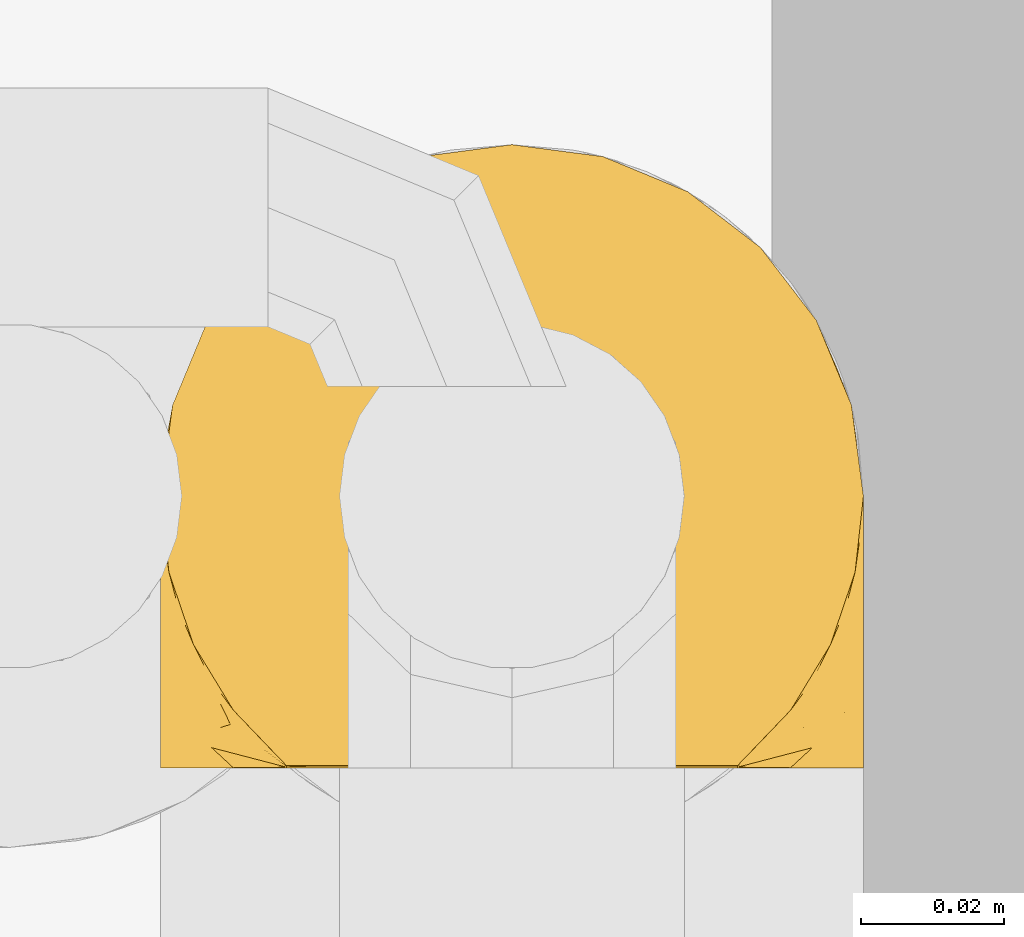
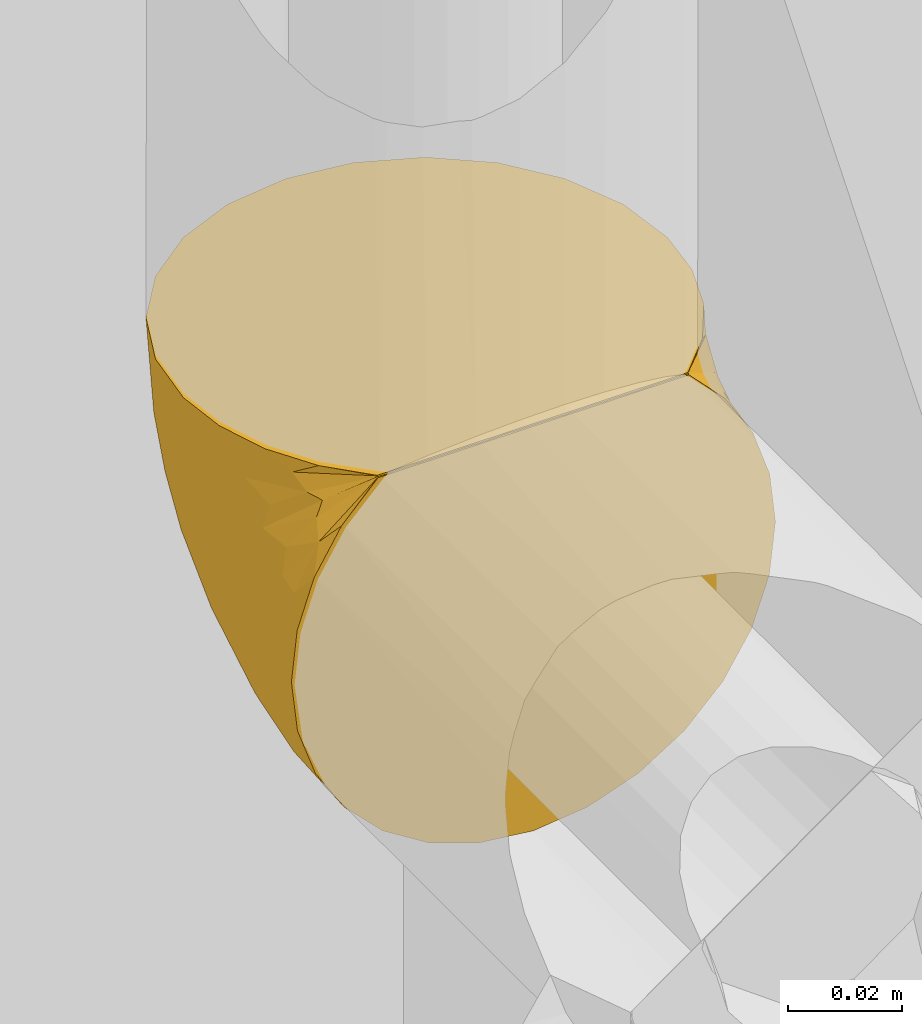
# One storey, part 66 of 94: 1 covering.
"""IFC2X3 building model written with IfcOpenShell, lengths in millimetres."""

import ifcopenshell
import ifcopenshell.guid

model = None  # the IFC model being written
_history = None  # IfcOwnerHistory: only IFC2X3 demands one
_inside = {}  # id of a spatial element -> (the spatial element, [elements in it])
_under = {}  # id of a project, library or spatial element -> (it, [spatial elements below it])
_declared = {}  # id of a project -> (the project, [libraries it declares])
_typed = {}  # id of a type object -> (the type object, [elements of that type])
_made_of = {}  # id of a material, layer set ... -> (it, [elements and type objects made of it])


def new_model(schema):
    """Start an empty IFC model of exactly this schema.

    Asked for "IFC4X3", IfcOpenShell would pick the latest addendum, in which some entities
    have other attributes; the version numbers below select the first issue.
    IFC2X3 requires an IfcOwnerHistory on every rooted entity: one is made here for all.
    """
    global model, _history
    if schema == "IFC4X3":
        model = ifcopenshell.file(schema_version=(4, 3, 0, 0))
    else:
        model = ifcopenshell.file(schema=schema)
    _inside.clear()
    _under.clear()
    _declared.clear()
    _typed.clear()
    _made_of.clear()
    _history = None
    if model.schema == "IFC2X3":
        org = make("IfcOrganization", Name="unknown")
        user = make(
            "IfcPersonAndOrganization",
            ThePerson=make("IfcPerson", FamilyName="unknown"),
            TheOrganization=org,
        )
        app = make(
            "IfcApplication",
            ApplicationDeveloper=org,
            Version="unknown",
            ApplicationFullName="unknown",
            ApplicationIdentifier="unknown",
        )
        _history = make(
            "IfcOwnerHistory",
            OwningUser=user,
            OwningApplication=app,
            ChangeAction="ADDED",
            CreationDate=0,
        )
    return model


def make(cls, **values):
    """One entity of the class cls with the attributes given. An attribute that is None is left unset."""
    return model.create_entity(
        cls, **{name: value for name, value in values.items() if value is not None}
    )


def entity(cls, *values):
    """Any entity or typed value of the class cls, its attributes in the order of the schema. None: left unset."""
    e = model.create_entity(cls)
    for i, value in enumerate(values):
        if value is not None:
            e[i] = value
    return e


def rooted(cls, **values):
    """An entity with a GlobalId (a new one), such as an element, a storey or a relation."""
    return make(cls, GlobalId=ifcopenshell.guid.new(), OwnerHistory=_history, **values)


def si_unit(unit_type, name, prefix=None):
    """IfcSIUnit, for example si_unit("LENGTHUNIT", "METRE", prefix="MILLI")."""
    return make("IfcSIUnit", UnitType=unit_type, Prefix=prefix, Name=name)


def converted_unit(unit_type, name, factor, base, dimensions=None, offset=None):
    """IfcConversionBasedUnit, such as the inch: factor (a typed value) times the base unit."""
    return make(
        "IfcConversionBasedUnit"
        if offset is None
        else "IfcConversionBasedUnitWithOffset",
        ConversionOffset=offset,
        Dimensions=None
        if dimensions is None
        else entity("IfcDimensionalExponents", *dimensions),
        UnitType=unit_type,
        Name=name,
        ConversionFactor=make(
            "IfcMeasureWithUnit", ValueComponent=factor, UnitComponent=base
        ),
    )


def derived_unit(unit_type, elements):
    """IfcDerivedUnit: a product of units, each with its exponent."""
    return make(
        "IfcDerivedUnit",
        Elements=[
            make("IfcDerivedUnitElement", Unit=unit, Exponent=power)
            for unit, power in elements
        ],
        UnitType=unit_type,
    )


def assignment(units):
    """IfcUnitAssignment: the units of a project."""
    return None if units is None else make("IfcUnitAssignment", Units=units)


def point(xyz):
    """IfcCartesianPoint."""
    return None if xyz is None else make("IfcCartesianPoint", Coordinates=xyz)


def direction(xyz):
    """IfcDirection."""
    return None if xyz is None else make("IfcDirection", DirectionRatios=xyz)


def frame(location, z_axis=None, x_axis=None):
    """IfcAxis2Placement3D, a coordinate frame: its origin and axes. An axis left out is left unset."""
    return make(
        "IfcAxis2Placement3D",
        Location=point(location),
        Axis=direction(z_axis),
        RefDirection=direction(x_axis),
    )


def origin():
    """The frame at (0, 0, 0) with its axes left unset."""
    return frame((0.0, 0.0, 0.0))


def place(relative_to, where):
    """IfcLocalPlacement: puts the frame where relative to a parent placement (None: the world)."""
    return make(
        "IfcLocalPlacement", PlacementRelTo=relative_to, RelativePlacement=where
    )


def context(
    kind, dimensions, precision=None, world=None, true_north=None, identifier=None
):
    """IfcGeometricRepresentationContext, for example the 3D "Model" context."""
    return make(
        "IfcGeometricRepresentationContext",
        ContextIdentifier=identifier,
        ContextType=kind,
        CoordinateSpaceDimension=dimensions,
        Precision=precision,
        WorldCoordinateSystem=world,
        TrueNorth=true_north,
    )


def subcontext(parent, identifier, kind, view, scale=None):
    """IfcGeometricRepresentationSubContext, for example "Body" below "Model"."""
    return make(
        "IfcGeometricRepresentationSubContext",
        ContextIdentifier=identifier,
        ContextType=kind,
        ParentContext=parent,
        TargetScale=scale,
        TargetView=view,
    )


def project(units=None, contexts=None):
    """IfcProject with its units and contexts."""
    return rooted(
        "IfcProject",
        Name="project",
        RepresentationContexts=contexts,
        UnitsInContext=assignment(units),
    )


def spatial(cls, under=None, at=None, **own):
    """A site, building, storey or space (cls), placed at a placement, below another one or the project."""
    s = rooted(cls, ObjectPlacement=at, **own)
    if under is not None:
        _under.setdefault(under.id(), (under, []))[1].append(s)
    return s


def faces_of(points, faces, orient=None, outer=None):
    """IfcFace entities. A face is a list of loops; a loop is a list of indices into points, from 0.

    orient and outer hold one flag for each loop. By default every Orientation is true, the
    first loop of a face is its IfcFaceOuterBound and the others are IfcFaceBound.
    """
    made = []
    for i, loops in enumerate(faces):
        bounds = []
        for j, loop in enumerate(loops):
            is_outer = j == 0 if outer is None else outer[i][j]
            bounds.append(
                make(
                    "IfcFaceOuterBound" if is_outer else "IfcFaceBound",
                    Bound=make("IfcPolyLoop", Polygon=[points[k] for k in loop]),
                    Orientation=True if orient is None else orient[i][j],
                )
            )
        made.append(make("IfcFace", Bounds=bounds))
    return made


def faceted_brep(points, faces, orient=None, outer=None, voids=None):
    """IfcFacetedBrep: a solid bounded by flat faces; with voids (closed shells), ...WithVoids."""
    shared = [point(p) for p in points]
    hull = make("IfcClosedShell", CfsFaces=faces_of(shared, faces, orient, outer))
    if voids is None:
        return make("IfcFacetedBrep", Outer=hull)
    return make(
        "IfcFacetedBrepWithVoids",
        Outer=hull,
        Voids=[
            make(cls, CfsFaces=faces_of(shared, fs, o, b)) for cls, fs, o, b in voids
        ],
    )


def shape(context_of_items, identifier, shape_type, items):
    """IfcShapeRepresentation: the items that make up one representation, for example the "Body"."""
    return make(
        "IfcShapeRepresentation",
        ContextOfItems=context_of_items,
        RepresentationIdentifier=identifier,
        RepresentationType=shape_type,
        Items=items,
    )


def material(Name=None, Category=None):
    """IfcMaterial."""
    return make("IfcMaterial", Name=Name, Category=Category)


def made_of(thing, what):
    """Note that an element or type object is made of a material, layer set ...; save() writes the relation."""
    if what is not None:
        _made_of.setdefault(what.id(), (what, []))[1].append(thing)
    return thing


def element(
    cls,
    number,
    at=None,
    inside=None,
    cuts=None,
    type_object=None,
    material=None,
    context=None,
    identifier="Body",
    shape_type=None,
    held_by="IfcProductDefinitionShape",
    body=None,
    shapes=None,
    **own,
):
    """One element of the class cls, such as IfcWall. Its Tag is "e" and its number.

    at: its placement. inside: the storey or other place that contains it. cuts: it is an
    opening in that element (IfcRelVoidsElement). A single representation is given by context,
    identifier, shape_type and body (its items); several are given by shapes. held_by: the class
    of the entity that holds the representations. save() writes the other relations.
    """
    e = rooted(cls, Tag="e%d" % number, ObjectPlacement=at, **own)
    if body is not None:
        shapes = [shape(context, identifier, shape_type, body)]
    if shapes is not None:
        e.Representation = make(held_by, Representations=shapes)
    if inside is not None:
        _inside.setdefault(inside.id(), (inside, []))[1].append(e)
    if cuts is not None:
        rooted(
            "IfcRelVoidsElement", RelatingBuildingElement=cuts, RelatedOpeningElement=e
        )
    if type_object is not None:
        _typed.setdefault(type_object.id(), (type_object, []))[1].append(e)
    return made_of(e, material)


def aggregate(whole, parts):
    """IfcRelAggregates: a whole, such as a stair, and the parts it consists of."""
    return rooted("IfcRelAggregates", RelatingObject=whole, RelatedObjects=parts)


def save(model, path):
    """Write the relations noted so far, then the file.

    IfcRelAggregates (storeys below a building ...), IfcRelContainedInSpatialStructure (elements
    in a storey), IfcRelDefinesByType, IfcRelAssociatesMaterial and IfcRelDeclares: one each for
    every whole, place, type object, material and project.
    """
    for whole, parts in _under.values():
        aggregate(whole, parts)
    for where, things in _inside.values():
        rooted(
            "IfcRelContainedInSpatialStructure",
            RelatedElements=things,
            RelatingStructure=where,
        )
    for kind, things in _typed.values():
        rooted("IfcRelDefinesByType", RelatedObjects=things, RelatingType=kind)
    for what, things in _made_of.values():
        rooted("IfcRelAssociatesMaterial", RelatedObjects=things, RelatingMaterial=what)
    for by, libraries in _declared.values():
        rooted("IfcRelDeclares", RelatingContext=by, RelatedDefinitions=libraries)
    model.write(path)


model = new_model("IFC2X3")

# Units and contexts
model_context = context("Model", 3, precision=0.01, world=origin(), true_north=direction((6.123031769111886e-17, 1.0)))
body_context = subcontext(model_context, "Body", "Model", "MODEL_VIEW")
ifc_project = project(units=[si_unit("LENGTHUNIT", "METRE", prefix="MILLI"), si_unit("AREAUNIT", "SQUARE_METRE"), si_unit("VOLUMEUNIT", "CUBIC_METRE"), converted_unit("PLANEANGLEUNIT", "DEGREE", entity("IfcRatioMeasure", 0.017453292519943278), si_unit("PLANEANGLEUNIT", "RADIAN"), dimensions=[0, 0, 0, 0, 0, 0, 0]), si_unit("MASSUNIT", "GRAM", prefix="KILO"), derived_unit("MASSDENSITYUNIT", [(si_unit("MASSUNIT", "GRAM", prefix="KILO"), 1), (si_unit("LENGTHUNIT", "METRE"), -3)]), derived_unit("IONCONCENTRATIONUNIT", [(si_unit("MASSUNIT", "GRAM", prefix="KILO"), 1), (si_unit("LENGTHUNIT", "METRE"), -3)]), derived_unit("MOMENTOFINERTIAUNIT", [(si_unit("LENGTHUNIT", "METRE"), 4)]), si_unit("TIMEUNIT", "SECOND"), si_unit("FREQUENCYUNIT", "HERTZ"), si_unit("THERMODYNAMICTEMPERATUREUNIT", "DEGREE_CELSIUS"), derived_unit("THERMALTRANSMITTANCEUNIT", [(si_unit("MASSUNIT", "GRAM", prefix="KILO"), 1), (si_unit("THERMODYNAMICTEMPERATUREUNIT", "KELVIN"), -1), (si_unit("TIMEUNIT", "SECOND"), -3)]), derived_unit("THERMALCONDUCTANCEUNIT", [(si_unit("MASSUNIT", "GRAM", prefix="KILO"), 1), (si_unit("THERMODYNAMICTEMPERATUREUNIT", "KELVIN"), -1), (si_unit("TIMEUNIT", "SECOND"), -3), (si_unit("LENGTHUNIT", "METRE"), 1)]), derived_unit("VOLUMETRICFLOWRATEUNIT", [(si_unit("LENGTHUNIT", "METRE"), 3), (si_unit("TIMEUNIT", "SECOND"), -1)]), derived_unit("MASSFLOWRATEUNIT", [(si_unit("MASSUNIT", "GRAM", prefix="KILO"), 1), (si_unit("TIMEUNIT", "SECOND"), -1)]), derived_unit("ROTATIONALFREQUENCYUNIT", [(si_unit("TIMEUNIT", "SECOND"), -1)]), si_unit("ELECTRICCURRENTUNIT", "AMPERE"), si_unit("ELECTRICVOLTAGEUNIT", "VOLT"), si_unit("POWERUNIT", "WATT"), si_unit("FORCEUNIT", "NEWTON", prefix="KILO"), si_unit("ILLUMINANCEUNIT", "LUX"), si_unit("LUMINOUSFLUXUNIT", "LUMEN"), si_unit("LUMINOUSINTENSITYUNIT", "CANDELA"), derived_unit("USERDEFINED", [(si_unit("MASSUNIT", "GRAM", prefix="KILO"), -1), (si_unit("LENGTHUNIT", "METRE"), -2), (si_unit("TIMEUNIT", "SECOND"), 3), (si_unit("LUMINOUSFLUXUNIT", "LUMEN"), 1)]), derived_unit("USERDEFINED", [(si_unit("MASSUNIT", "GRAM", prefix="KILO"), 1), (si_unit("TIMEUNIT", "SECOND"), -3), (si_unit("LENGTHUNIT", "METRE"), 3), (si_unit("ELECTRICCURRENTUNIT", "AMPERE"), -2)]), derived_unit("SOUNDPOWERUNIT", [(si_unit("MASSUNIT", "GRAM", prefix="KILO"), 1), (si_unit("TIMEUNIT", "SECOND"), -3), (si_unit("LENGTHUNIT", "METRE"), 2)]), derived_unit("SOUNDPRESSUREUNIT", [(si_unit("MASSUNIT", "GRAM", prefix="KILO"), 1), (si_unit("LENGTHUNIT", "METRE"), -1), (si_unit("TIMEUNIT", "SECOND"), -2)]), derived_unit("LINEARVELOCITYUNIT", [(si_unit("LENGTHUNIT", "METRE"), 1), (si_unit("TIMEUNIT", "SECOND"), -1)]), si_unit("PRESSUREUNIT", "PASCAL"), derived_unit("USERDEFINED", [(si_unit("MASSUNIT", "GRAM", prefix="KILO"), 1), (si_unit("LENGTHUNIT", "METRE"), -2), (si_unit("TIMEUNIT", "SECOND"), -2)]), derived_unit("LINEARFORCEUNIT", [(si_unit("MASSUNIT", "GRAM", prefix="KILO"), 1), (si_unit("TIMEUNIT", "SECOND"), -2)]), derived_unit("PLANARFORCEUNIT", [(si_unit("MASSUNIT", "GRAM", prefix="KILO"), 1), (si_unit("LENGTHUNIT", "METRE"), -1), (si_unit("TIMEUNIT", "SECOND"), -2)]), derived_unit("SPECIFICHEATCAPACITYUNIT", [(si_unit("THERMODYNAMICTEMPERATUREUNIT", "KELVIN"), -1), (si_unit("LENGTHUNIT", "METRE"), 2), (si_unit("TIMEUNIT", "SECOND"), -2)]), derived_unit("HEATINGVALUEUNIT", [(si_unit("LENGTHUNIT", "METRE"), 2), (si_unit("TIMEUNIT", "SECOND"), -2)]), derived_unit("VAPORPERMEABILITYUNIT", [(si_unit("LENGTHUNIT", "METRE"), -1), (si_unit("TIMEUNIT", "SECOND"), 1)]), derived_unit("DYNAMICVISCOSITYUNIT", [(si_unit("MASSUNIT", "GRAM", prefix="KILO"), 1), (si_unit("TIMEUNIT", "SECOND"), -1), (si_unit("LENGTHUNIT", "METRE"), -1)]), derived_unit("THERMALEXPANSIONCOEFFICIENTUNIT", [(si_unit("THERMODYNAMICTEMPERATUREUNIT", "KELVIN"), -1)]), derived_unit("MODULUSOFELASTICITYUNIT", [(si_unit("MASSUNIT", "GRAM", prefix="KILO"), 1), (si_unit("LENGTHUNIT", "METRE"), -1), (si_unit("TIMEUNIT", "SECOND"), -2)]), derived_unit("ISOTHERMALMOISTURECAPACITYUNIT", [(si_unit("LENGTHUNIT", "METRE"), 3), (si_unit("MASSUNIT", "GRAM", prefix="KILO"), -1)]), derived_unit("MOISTUREDIFFUSIVITYUNIT", [(si_unit("TIMEUNIT", "SECOND"), -1), (si_unit("LENGTHUNIT", "METRE"), 2)])], contexts=[model_context])

# Site, building, storey
site_placement = place(None, origin())
site = spatial("IfcSite", under=ifc_project, at=site_placement, Name="Default", CompositionType="ELEMENT")
building_placement = place(site_placement, origin())
building = spatial("IfcBuilding", under=site, at=building_placement, CompositionType="ELEMENT")
storey_placement = place(building_placement, origin())
storey = spatial("IfcBuildingStorey", under=building, at=storey_placement, Name="Niveau 0", CompositionType="ELEMENT", Elevation=0.0)

# Covering
ifc_material = material(Name="Isolation - Laine minérale")
covering_placement = place(storey_placement, frame((-5839.6305268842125, 9987.250898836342, 618.4702525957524)))
element("IfcCovering", 1, at=covering_placement, inside=storey, material=ifc_material, Name="Isolation des canalisations:Laine minérale", ObjectType="Isolation des canalisations:Laine minérale", PredefinedType="INSULATION", context=body_context, shape_type="Brep", body=[
    faceted_brep([(2.8291513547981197, 1.5957276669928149, -50.5386808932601), (6.466804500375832, 1.595804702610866, -60.92942203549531), (12.324723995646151, 1.595871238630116, -70.24825958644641), (20.108455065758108, 1.5959239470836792, -78.02890352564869), (29.42759313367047, 1.5959601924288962, -83.88215232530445), (39.81523593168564, 1.5959781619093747, -87.51516023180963), (50.74590397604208, 1.5959769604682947, -88.74594440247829), (61.688263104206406, 1.5959566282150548, -87.51231966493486), (72.07900424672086, 1.5959181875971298, -83.87466651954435), (81.39784179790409, 1.5958635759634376, -78.01674702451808), (89.17848573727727, 1.5957955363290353, -70.23301595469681), (95.03173453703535, 1.5957174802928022, -60.913877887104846), (98.66474244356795, 1.5956333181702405, -50.52623508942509), (99.89552661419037, 1.5955473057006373, -39.595567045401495), (98.72569041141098, 1.5954657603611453, -28.936376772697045), (95.27367191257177, 1.5953904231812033, -18.7880906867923), (89.705313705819, 1.5953248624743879, -9.631674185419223), (82.29577971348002, 1.5952722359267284, -1.9090232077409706), (79.85152476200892, 1.5952746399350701, -1.9090419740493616), (78.0745265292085, 1.5952763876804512, -1.9090556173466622), (76.29752829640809, 1.595278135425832, -1.9090692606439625), (74.79796544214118, 1.5952796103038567, -1.909080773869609), (73.29840258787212, 1.595281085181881, -1.9090922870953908), (70.29927687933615, 1.5952840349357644, -1.9091153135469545), (67.30015117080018, 1.5952869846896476, -1.9091383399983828), (64.3010254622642, 1.5952899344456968, -1.909161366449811), (61.30189975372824, 1.59529288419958, -1.9091843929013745), (59.80233689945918, 1.5952943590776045, -1.9091959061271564), (58.30277404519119, 1.595295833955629, -1.9092074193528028), (55.85851909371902, 1.5952982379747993, -1.9092261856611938), (53.414264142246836, 1.595300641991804, -1.90924495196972), (50.97000919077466, 1.5953030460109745, -1.9092637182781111), (48.5257542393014, 1.595305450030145, -1.9092824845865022), (46.08149928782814, 1.5953078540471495, -1.9093012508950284), (43.637244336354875, 1.5953102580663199, -1.9093200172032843), (41.19298938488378, 1.5953126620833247, -1.9093387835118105), (38.748734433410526, 1.5953150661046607, -1.9093575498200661), (36.304479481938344, 1.5953174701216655, -1.9093763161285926), (33.86022453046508, 1.59531987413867, -1.9093950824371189), (31.415969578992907, 1.5953222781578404, -1.90941384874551), (28.97171462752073, 1.5953246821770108, -1.909432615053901), (26.527459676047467, 1.5953270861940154, -1.9094513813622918), (24.083204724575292, 1.5953294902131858, -1.9094701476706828), (21.63894977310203, 1.5953318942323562, -1.9094889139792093), (19.194694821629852, 1.5953342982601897, -1.9095076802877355), (11.772507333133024, 1.5954016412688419, -9.648886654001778), (6.207051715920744, 1.5954781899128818, -18.81021002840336), (2.760658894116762, 1.5955603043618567, -28.95757189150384), (1.5955266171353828, 1.5956439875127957, -39.59632176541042), (82.29577761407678, 1.908885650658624, -1.5954073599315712), (89.71324572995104, 9.641972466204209, -1.5953504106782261), (95.27856325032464, 18.798757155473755, -1.5953076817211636), (98.72721023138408, 28.944017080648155, -1.5952812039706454), (99.8952722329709, 39.59554730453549, -1.5952722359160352), (98.22053910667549, 52.316505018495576, -1.5952850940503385), (93.3104449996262, 64.17055378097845, -1.5953227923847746), (85.49960471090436, 74.34985975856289, -1.5953827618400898), (75.32031409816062, 82.16072007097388, -1.5954609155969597), (63.46627499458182, 87.07083749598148, -1.5955519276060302), (50.745320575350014, 88.74559564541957, -1.595649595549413), (38.02436286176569, 87.07086251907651, -1.5957472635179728), (26.17031409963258, 82.16076841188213, -1.5958382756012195), (15.991008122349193, 74.34992812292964, -1.595916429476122), (8.180147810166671, 64.17063750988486, -1.595976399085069), (3.270030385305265, 52.31659840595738, -1.5960140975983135), (1.5952722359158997, 39.59564398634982, -1.5960269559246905), (2.7633132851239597, 28.944111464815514, -1.596017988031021), (6.211940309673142, 18.798844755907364, -1.5959915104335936), (11.777239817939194, 9.642049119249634, -1.5959487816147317), (19.194692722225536, 1.9089477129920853, -1.5958918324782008), (21.63894767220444, 1.908945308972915, -1.59587306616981), (23.138510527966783, 1.9089438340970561, -1.595861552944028), (25.11041943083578, 1.9089418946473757, -1.5958464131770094), (27.082328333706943, 1.9089399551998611, -1.5958312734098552), (29.054237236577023, 1.9089380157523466, -1.5958161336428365), (31.026146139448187, 1.908936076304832, -1.5958009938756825), (32.99805504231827, 1.9089341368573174, -1.5957858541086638), (34.96996394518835, 1.908932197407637, -1.5957707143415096), (36.94187284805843, 1.9089302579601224, -1.595755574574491), (38.913781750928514, 1.9089283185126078, -1.5957404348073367), (40.88569065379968, 1.9089263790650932, -1.595725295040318), (42.857599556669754, 1.9089244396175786, -1.595710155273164), (44.82950845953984, 1.9089225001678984, -1.5956950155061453), (46.801417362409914, 1.9089205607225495, -1.5956798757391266), (48.77332626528, 1.9089186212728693, -1.5956647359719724), (50.74523516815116, 1.9089166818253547, -1.5956495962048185), (52.717144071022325, 1.90891474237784, -1.5956344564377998), (54.68905297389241, 1.9089128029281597, -1.595619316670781), (56.660961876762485, 1.908910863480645, -1.5956041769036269), (58.63287077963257, 1.9089089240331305, -1.5955890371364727), (60.60477968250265, 1.908906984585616, -1.595573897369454), (62.57668858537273, 1.9089050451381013, -1.5955587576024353), (64.5485974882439, 1.9089031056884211, -1.5955436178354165), (66.52050639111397, 1.9089011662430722, -1.5955284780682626), (69.51963210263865, 1.9088982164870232, -1.5955054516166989), (72.51875781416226, 1.9088952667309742, -1.5954824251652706), (74.96301276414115, 1.9088928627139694, -1.5954636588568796), (77.40726771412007, 1.908890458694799, -1.5954448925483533), (79.85152266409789, 1.9088880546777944, -1.5954261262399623), (47.737228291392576, 1.8242150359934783, -1.8100427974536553), (49.657808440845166, 1.8156542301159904, -1.8188165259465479), (40.01775558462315, 1.8147579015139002, -1.8197813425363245), (37.927828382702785, 1.8212611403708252, -1.8132394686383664), (53.48954522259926, 1.8331971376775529, -1.7999786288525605), (24.240817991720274, 1.828068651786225, -1.8060581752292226), (20.791712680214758, 1.7793356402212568, -1.8498420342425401), (59.05255556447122, 1.8115141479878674, -1.8227491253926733), (78.62939691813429, 1.8170341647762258, -1.8171945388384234), (76.78999818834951, 1.8189905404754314, -1.8152366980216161), (30.120633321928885, 1.8098811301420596, -1.8245412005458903), (28.08693010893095, 1.8202696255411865, -1.8143503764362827), (57.08064673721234, 1.7964836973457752, -1.8361791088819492), (63.562645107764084, 1.8230172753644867, -1.81117674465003), (61.677332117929, 1.826313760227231, -1.8076575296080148), (65.53455406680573, 1.8091225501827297, -1.8249460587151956), (51.731191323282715, 1.8225571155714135, -1.8117647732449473), (80.46258805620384, 1.8194128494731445, -1.8147741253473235), (45.81546396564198, 1.8294683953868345, -1.8043084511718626), (33.9840105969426, 1.8302180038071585, -1.8035680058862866), (35.876131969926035, 1.8259287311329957, -1.8083017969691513), (67.38573204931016, 1.8273006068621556, -1.8065275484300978), (43.93843290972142, 1.8268106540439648, -1.807270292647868), (22.388730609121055, 1.817089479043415, -1.8176263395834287), (26.09637521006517, 1.8279470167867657, -1.8061765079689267), (19.194694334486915, 1.8170926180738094, -1.817650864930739), (19.1946944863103, 1.7479752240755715, -1.8462806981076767), (19.194694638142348, 1.6788578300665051, -1.8749105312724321), (82.29577922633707, 1.817030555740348, -1.8171663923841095), (82.29577872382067, 1.845659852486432, -1.7480487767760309), (82.29577822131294, 1.8742891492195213, -1.67893116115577), (69.27814949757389, 1.8026593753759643, -1.83077263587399), (32.05514877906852, 1.8237860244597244, -1.810636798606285), (55.24236187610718, 1.816012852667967, -1.8184135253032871), (42.000051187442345, 1.8182583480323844, -1.8162812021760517), (72.07112159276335, 1.7977788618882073, -1.8349624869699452), (74.04818373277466, 1.8208989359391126, -1.8133010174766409), (19.194693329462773, 1.8743512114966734, -1.6794156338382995), (19.19469383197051, 1.8457219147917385, -1.7485332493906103), (82.29577952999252, 1.6787957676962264, -1.8744260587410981), (82.29577937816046, 1.7479131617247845, -1.8457962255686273), (97.28021577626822, 23.49532958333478, -5.119789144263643), (92.74620988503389, 13.747784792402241, -4.404517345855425), (97.2802465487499, 22.409875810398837, -9.262554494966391), (91.53486458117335, 10.56260023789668, -7.207819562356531), (99.89534266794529, 37.05003479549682, -11.095303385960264), (99.89532751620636, 37.597616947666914, -9.051688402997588), (99.89550621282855, 20.595570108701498, -34.50439462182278), (98.55521730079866, 16.020437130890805, -23.945289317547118), (97.27716614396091, 9.261890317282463, -22.400214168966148), (99.89541310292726, 34.50452228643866, -20.595334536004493), (92.08558946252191, 9.668475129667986, -9.66734761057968), (91.52698331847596, 7.20307385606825, -10.551733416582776), (98.5550202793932, 23.94510485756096, -16.019593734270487), (97.27717033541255, 5.119569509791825, -23.485958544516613), (92.73979697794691, 4.403003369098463, -13.737254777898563), (95.79992185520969, 17.541626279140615, -10.691614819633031), (99.89551860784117, 9.051947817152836, -37.59757888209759), (99.89551641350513, 11.095558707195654, -37.04998083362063), (97.00811401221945, 16.72929792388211, -16.729219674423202), (99.89545965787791, 27.55004619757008, -27.54986457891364), (95.72457631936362, 12.071779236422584, -16.460891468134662), (98.87893054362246, 47.624220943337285, -15.011474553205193), (98.8331908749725, 44.001702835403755, -24.42992717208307), (90.35928129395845, 58.899965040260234, -36.49304236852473), (80.66615642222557, 72.6680433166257, -31.204156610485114), (89.7387518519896, 67.20183536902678, -19.174562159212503), (96.15413320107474, 54.08011265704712, -23.335199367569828), (96.1540449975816, 57.54138536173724, -11.46009141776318), (50.74569749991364, 72.10152936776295, -52.82108881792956), (50.745523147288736, 84.48019839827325, -28.526443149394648), (61.15110454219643, 80.24830718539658, -36.46575130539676), (92.36675926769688, 13.851906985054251, -64.5558645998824), (97.13987821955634, 15.165711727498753, -54.09657269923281), (68.8440725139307, 60.77810530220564, -60.777877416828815), (77.72209853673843, 55.38621147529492, -59.570086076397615), (65.87587611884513, 43.897917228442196, -75.0485884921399), (59.7946099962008, 86.12677679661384, -19.027097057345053), (70.98114284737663, 73.23201467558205, -43.09971275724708), (79.74250956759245, 64.74774482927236, -46.836781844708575), (80.66603699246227, 77.40403531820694, -15.050809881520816), (69.55436973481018, 82.14747861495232, -23.23807145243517), (85.50660789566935, 52.829516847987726, -53.24146556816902), (91.9811340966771, 48.8793669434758, -45.825543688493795), (90.08518886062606, 40.60765265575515, -56.63590801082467), (97.76734070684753, 28.770433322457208, -46.28892414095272), (92.36674039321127, 27.448900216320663, -60.296637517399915), (85.5067180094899, 19.800929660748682, -72.02847395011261), (50.74589771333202, 28.526737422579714, -84.48033822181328), (66.98580407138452, 22.716283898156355, -83.29952758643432), (82.95512310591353, 42.31790301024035, -64.72625762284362), (76.90290390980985, 33.68438140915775, -74.45388466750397), (76.90292813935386, 16.80756220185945, -79.74049801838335), (62.41529094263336, 71.07897300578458, -51.836953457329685), (59.144864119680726, 60.33301699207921, -64.99561151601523), (98.92755829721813, 33.373742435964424, -37.17705836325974), (50.74582656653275, 52.82128705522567, -72.10148070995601), (96.76834763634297, 43.46583217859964, -37.645949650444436), (31.93665709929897, 79.2004868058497, -32.165305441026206), (41.90559746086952, 86.24521659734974, -18.640109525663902), (41.62544121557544, 80.83837863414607, -35.76678427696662), (35.35307039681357, 72.52854494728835, -47.843027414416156), (31.936530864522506, 83.87431443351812, -15.278773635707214), (15.997711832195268, 35.79934747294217, -65.81604911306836), (22.502486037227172, 48.02107002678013, -64.55479070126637), (24.60366731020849, 33.687972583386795, -74.46297085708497), (15.998008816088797, 52.83891896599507, -53.2514080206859), (23.20420588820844, 59.75639214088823, -54.62771836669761), (4.356132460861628, 15.170534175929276, -54.10995899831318), (2.5376522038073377, 45.55179129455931, -19.803274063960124), (1.5954131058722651, 34.504618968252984, -20.59608925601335), (1.5953426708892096, 37.05013147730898, -11.096058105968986), (34.5194165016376, 22.71537166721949, -83.30488364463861), (20.824833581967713, 76.0774822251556, -21.100372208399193), (9.134056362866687, 27.455188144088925, -60.310845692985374), (9.134076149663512, 13.854561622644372, -64.57120239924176), (11.752074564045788, 68.4710287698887, -13.465797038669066), (5.336722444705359, 56.45880100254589, -16.336577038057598), (21.866068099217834, 68.08893249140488, -41.93073159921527), (11.752179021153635, 64.2931101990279, -27.715683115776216), (41.98288629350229, 66.01160597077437, -59.120314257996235), (32.65648393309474, 60.78067787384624, -60.780692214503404), (2.4779789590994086, 48.019451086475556, -10.514618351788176), (24.603691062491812, 16.809750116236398, -79.75003431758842), (35.63450853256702, 43.90142523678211, -75.05379607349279), (15.99812223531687, 19.804314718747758, -72.04183897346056), (3.726996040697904, 28.787299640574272, -46.29146964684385), (1.5955062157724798, 20.59566679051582, -34.50514934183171), (2.7014853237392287, 35.48537971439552, -36.106039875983), (1.595459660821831, 27.550142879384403, -27.550619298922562), (1.5955186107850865, 9.052044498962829, -37.598333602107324), (1.5955164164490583, 11.095655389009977, -37.05073555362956), (9.987028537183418, 53.163432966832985, -41.92907189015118), (5.063912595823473, 52.05341635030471, -26.19835833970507), (8.341016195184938, 41.401554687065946, -50.23489508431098), (2.407375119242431, 40.72158643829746, -27.450685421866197), (15.399827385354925, 60.91723636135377, -42.66839894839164), (4.8126454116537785, 45.94090661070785, -34.951946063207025), (4.210382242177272, 22.409966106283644, -9.263269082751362), (5.763975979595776, 16.464608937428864, -12.07572282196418), (2.9359590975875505, 23.94374479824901, -16.020692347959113), (4.210351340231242, 23.49542051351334, -5.120503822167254), (8.744327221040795, 13.747866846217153, -4.405162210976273), (9.954258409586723, 10.5650257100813, -7.2087660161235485), (11.378234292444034, 7.656516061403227, -7.6590214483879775), (4.485347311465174, 16.72401104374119, -16.724551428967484), (9.94103694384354, 7.21676028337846, -10.583510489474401), (4.206459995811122, 9.263489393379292, -22.422879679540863), (4.206464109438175, 5.11986379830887, -23.50803192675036), (8.739279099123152, 4.406071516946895, -13.756773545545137), (2.936257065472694, 16.01900893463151, -23.94384606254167), (5.684850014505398, 10.692501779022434, -17.55750769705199)], [[[0, 1, 2, 3, 4, 5, 6, 7, 8, 9, 10, 11, 12, 13, 14, 15, 16, 17, 18, 19, 20, 21, 22, 23, 24, 25, 26, 27, 28, 29, 30, 31, 32, 33, 34, 35, 36, 37, 38, 39, 40, 41, 42, 43, 44, 45, 46, 47, 48]], [[49, 50, 51, 52, 53, 54, 55, 56, 57, 58, 59, 60, 61, 62, 63, 64, 65, 66, 67, 68, 69, 70, 71, 72, 73, 74, 75, 76, 77, 78, 79, 80, 81, 82, 83, 84, 85, 86, 87, 88, 89, 90, 91, 92, 93, 94, 95, 96, 97, 98]], [[99, 100, 84]], [[101, 102, 36]], [[86, 103, 87]], [[72, 71, 104]], [[105, 70, 69]], [[28, 27, 106]], [[19, 107, 108]], [[109, 74, 110]], [[29, 28, 111]], [[26, 112, 113]], [[108, 97, 96]], [[114, 93, 92]], [[103, 86, 115]], [[97, 107, 98]], [[107, 18, 116]], [[79, 102, 101]], [[99, 117, 33]], [[77, 118, 119]], [[120, 93, 114]], [[112, 91, 113]], [[89, 111, 106]], [[41, 40, 110]], [[107, 97, 108]], [[33, 117, 121]], [[92, 91, 112]], [[38, 119, 118]], [[85, 115, 86]], [[70, 105, 122]], [[72, 123, 73]], [[105, 124, 125, 126, 44]], [[116, 18, 17]], [[122, 71, 70]], [[42, 122, 43]], [[116, 127, 128, 129, 49]], [[110, 123, 41]], [[43, 122, 105]], [[120, 24, 130]], [[25, 114, 112]], [[114, 25, 24]], [[104, 123, 72]], [[92, 112, 114]], [[104, 122, 42]], [[25, 112, 26]], [[110, 73, 123]], [[37, 119, 38]], [[41, 123, 42]], [[75, 74, 109]], [[131, 76, 75]], [[118, 131, 38]], [[109, 110, 40]], [[109, 40, 39]], [[74, 73, 110]], [[123, 104, 42]], [[122, 104, 71]], [[27, 26, 113]], [[113, 90, 106]], [[88, 87, 132]], [[113, 106, 27]], [[77, 76, 118]], [[132, 111, 88]], [[106, 111, 28]], [[132, 29, 111]], [[88, 111, 89]], [[89, 106, 90]], [[113, 91, 90]], [[131, 118, 76]], [[39, 38, 131]], [[119, 37, 102]], [[131, 109, 39]], [[109, 131, 75]], [[79, 78, 102]], [[78, 119, 102]], [[78, 77, 119]], [[121, 81, 133]], [[37, 36, 102]], [[34, 121, 133]], [[80, 79, 101]], [[35, 101, 36]], [[132, 30, 29]], [[81, 80, 133]], [[30, 103, 115]], [[31, 30, 115]], [[87, 103, 132]], [[100, 115, 85]], [[32, 31, 100]], [[115, 100, 31]], [[33, 32, 99]], [[117, 82, 121]], [[100, 85, 84]], [[99, 83, 117]], [[82, 117, 83]], [[34, 33, 121]], [[83, 99, 84]], [[100, 99, 32]], [[35, 34, 133]], [[121, 82, 81]], [[133, 101, 35]], [[101, 133, 80]], [[134, 95, 94]], [[24, 120, 114]], [[132, 103, 30]], [[120, 94, 93]], [[94, 120, 130]], [[98, 107, 116]], [[108, 21, 20, 19]], [[22, 135, 134]], [[21, 135, 22]], [[134, 135, 95]], [[108, 96, 135]], [[108, 135, 21]], [[135, 96, 95]], [[134, 23, 22]], [[130, 23, 134]], [[43, 105, 44]], [[105, 69, 136, 137, 124]], [[98, 116, 49]], [[116, 17, 138, 139, 127]], [[19, 18, 107]], [[94, 130, 134]], [[23, 130, 24]], [[140, 141, 142]], [[143, 129, 128, 127]], [[52, 144, 145, 53]], [[146, 147, 148]], [[142, 149, 144]], [[150, 127, 151]], [[51, 140, 52]], [[142, 152, 149]], [[52, 140, 144]], [[129, 143, 141]], [[15, 14, 153]], [[148, 151, 154]], [[155, 141, 143]], [[151, 138, 154]], [[15, 153, 154]], [[17, 16, 138]], [[14, 13, 156, 157]], [[152, 155, 158]], [[159, 158, 147]], [[157, 148, 153]], [[15, 154, 16]], [[50, 49, 129]], [[50, 129, 141]], [[141, 51, 50]], [[160, 148, 147]], [[146, 148, 157]], [[138, 16, 154]], [[150, 158, 155]], [[151, 127, 139, 138]], [[141, 140, 51]], [[144, 140, 142]], [[157, 153, 14]], [[154, 153, 148]], [[149, 152, 159]], [[160, 147, 158]], [[147, 146, 159]], [[155, 152, 142]], [[159, 152, 158]], [[127, 150, 143]], [[160, 150, 151]], [[150, 160, 158]], [[148, 160, 151]], [[141, 155, 142]], [[155, 143, 150]], [[156, 13, 12]], [[161, 149, 162]], [[163, 164, 165]], [[166, 167, 161]], [[168, 169, 170]], [[55, 165, 56]], [[171, 172, 11]], [[173, 174, 175]], [[58, 176, 59]], [[173, 177, 178]], [[179, 57, 56]], [[55, 167, 165]], [[170, 180, 177]], [[57, 179, 180]], [[167, 55, 54]], [[181, 182, 183]], [[184, 146, 172]], [[172, 185, 184]], [[186, 185, 171]], [[186, 10, 9]], [[172, 146, 157, 156]], [[172, 12, 11]], [[173, 178, 174]], [[7, 187, 188]], [[189, 186, 190]], [[191, 186, 9]], [[175, 190, 188]], [[168, 192, 193]], [[189, 190, 174]], [[57, 180, 58]], [[9, 8, 191]], [[188, 8, 7]], [[7, 6, 187]], [[190, 191, 188]], [[159, 194, 162]], [[175, 187, 195]], [[177, 180, 164]], [[11, 10, 171]], [[176, 180, 170]], [[156, 12, 172]], [[54, 53, 145]], [[163, 165, 166]], [[179, 165, 164]], [[185, 189, 183]], [[184, 196, 194]], [[188, 191, 8]], [[186, 191, 190]], [[186, 171, 10]], [[172, 171, 185]], [[187, 175, 188]], [[193, 175, 195]], [[196, 163, 166]], [[163, 181, 178]], [[162, 166, 161]], [[184, 185, 183]], [[178, 177, 164]], [[177, 192, 170]], [[177, 173, 192]], [[176, 170, 169]], [[59, 176, 169]], [[58, 180, 176]], [[193, 192, 173]], [[168, 170, 192]], [[175, 193, 173]], [[168, 193, 195]], [[163, 178, 164]], [[184, 194, 146]], [[178, 181, 174]], [[189, 174, 181]], [[175, 174, 190]], [[183, 189, 181]], [[186, 189, 185]], [[182, 181, 163]], [[183, 182, 184]], [[163, 196, 182]], [[184, 182, 196]], [[165, 179, 56]], [[180, 179, 164]], [[161, 54, 145]], [[165, 167, 166]], [[54, 161, 167]], [[161, 145, 144, 149]], [[159, 162, 149]], [[196, 166, 162]], [[162, 194, 196]], [[146, 194, 159]], [[197, 198, 199]], [[59, 169, 198]], [[197, 199, 200]], [[198, 197, 201]], [[202, 203, 204]], [[61, 60, 201]], [[205, 206, 203]], [[1, 0, 207]], [[208, 209, 210]], [[187, 5, 211]], [[201, 212, 61]], [[213, 214, 207]], [[62, 215, 63]], [[63, 215, 216]], [[4, 211, 5]], [[217, 218, 212]], [[219, 220, 200]], [[216, 208, 221]], [[4, 3, 222]], [[63, 216, 64]], [[62, 61, 212]], [[211, 4, 222]], [[6, 5, 187]], [[217, 197, 200]], [[203, 223, 204]], [[3, 2, 224]], [[225, 213, 207]], [[204, 222, 224]], [[2, 1, 214]], [[204, 224, 202]], [[207, 226, 225]], [[227, 226, 228]], [[223, 211, 204]], [[214, 224, 2]], [[202, 224, 213]], [[0, 48, 229]], [[207, 229, 230, 226]], [[211, 223, 187]], [[218, 231, 232]], [[0, 229, 207]], [[205, 233, 231]], [[233, 213, 225]], [[217, 212, 197]], [[215, 212, 218]], [[228, 234, 227]], [[233, 205, 202]], [[208, 234, 209]], [[64, 221, 65]], [[235, 205, 231]], [[207, 214, 1]], [[224, 214, 213]], [[224, 222, 3]], [[211, 222, 204]], [[219, 223, 220]], [[187, 223, 195]], [[227, 233, 225]], [[234, 228, 209]], [[231, 233, 236]], [[221, 208, 210]], [[232, 208, 216]], [[65, 221, 210]], [[216, 221, 64]], [[233, 202, 213]], [[203, 202, 205]], [[205, 235, 206]], [[223, 203, 220]], [[200, 206, 217]], [[220, 203, 206]], [[232, 231, 236]], [[235, 218, 217]], [[212, 215, 62]], [[216, 215, 218]], [[218, 232, 216]], [[234, 232, 236]], [[232, 234, 208]], [[234, 236, 227]], [[233, 227, 236]], [[226, 227, 225]], [[198, 201, 60]], [[212, 201, 197]], [[59, 198, 60]], [[198, 169, 199]], [[169, 168, 199]], [[219, 200, 199]], [[219, 199, 168]], [[200, 220, 206]], [[168, 195, 219]], [[223, 219, 195]], [[218, 235, 231]], [[206, 235, 217]], [[66, 65, 210]], [[209, 237, 210]], [[238, 237, 239]], [[67, 240, 241]], [[242, 136, 241]], [[243, 137, 242]], [[243, 244, 245]], [[66, 240, 67]], [[136, 69, 68]], [[136, 68, 241]], [[246, 226, 230]], [[67, 241, 68]], [[210, 237, 240]], [[46, 247, 47]], [[209, 239, 237]], [[246, 247, 248]], [[47, 247, 230]], [[249, 250, 244]], [[239, 228, 244]], [[226, 246, 249]], [[250, 248, 245]], [[45, 44, 126]], [[237, 242, 241]], [[248, 46, 45]], [[45, 126, 248]], [[47, 230, 229, 48]], [[245, 126, 125]], [[126, 245, 248]], [[243, 124, 137]], [[210, 240, 66]], [[241, 240, 237]], [[248, 247, 46]], [[230, 247, 246]], [[226, 249, 228]], [[238, 239, 244]], [[239, 209, 228]], [[250, 249, 246]], [[228, 249, 244]], [[243, 242, 238]], [[136, 242, 137]], [[124, 243, 125]], [[125, 243, 245]], [[243, 238, 244]], [[237, 238, 242]], [[248, 250, 246]], [[244, 250, 245]]]),
])

save(model, "model.ifc")
